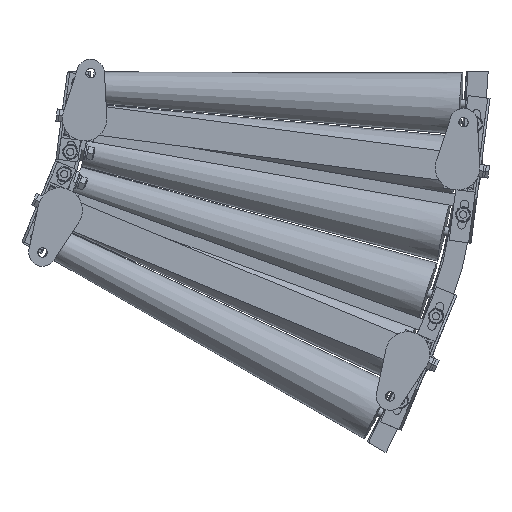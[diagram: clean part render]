
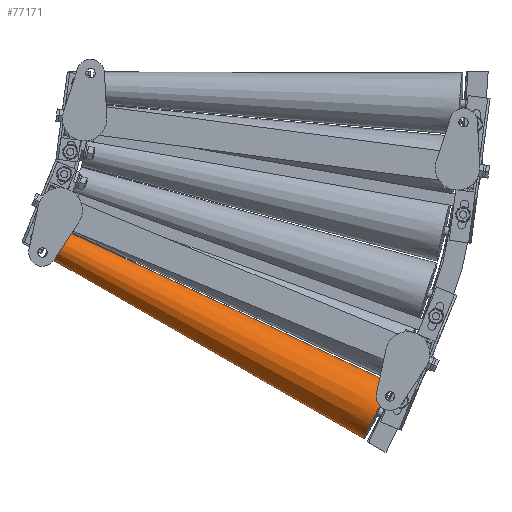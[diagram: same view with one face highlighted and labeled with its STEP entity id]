
A CAD part, front view. The second image highlights one B-rep face of the part: STEP entity #77171.
In plain terms, the highlighted conical face has half-angle 2.423 degrees and reference radius 42.7 mm.
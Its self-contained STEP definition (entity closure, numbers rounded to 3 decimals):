
#3678 = EDGE_CURVE ( 'NONE', #9377, #44040, #44375, .T. ) ;
#6372 = VERTEX_POINT ( 'NONE', #80101 ) ;
#8782 = EDGE_CURVE ( 'NONE', #6372, #30422, #22287, .T. ) ;
#9377 = VERTEX_POINT ( 'NONE', #56498 ) ;
#12168 = CARTESIAN_POINT ( 'NONE',  ( 874.942, -42.662, -503.605 ) ) ;
#17317 = CARTESIAN_POINT ( 'NONE',  ( 914.375, -42.662, -427.854 ) ) ;
#20587 = DIRECTION ( 'NONE',  ( -0.462, 0., -0.887 ) ) ;
#20701 = DIRECTION ( 'NONE',  ( -0.886, 0.042, 0.461 ) ) ;
#22287 = CIRCLE ( 'NONE', #68456, 42.7 ) ;
#24823 = DIRECTION ( 'NONE',  ( 0.462, 0., 0.887 ) ) ;
#27080 = LINE ( 'NONE', #34988, #43392 ) ;
#27844 = CARTESIAN_POINT ( 'NONE',  ( 457.377, -21.331, -214.026 ) ) ;
#28960 = ORIENTED_EDGE ( 'NONE', *, *, #71943, .T. ) ;
#30422 = VERTEX_POINT ( 'NONE', #17317 ) ;
#31506 = CARTESIAN_POINT ( 'NONE',  ( 894.658, -42.662, -465.73 ) ) ;
#32116 = DIRECTION ( 'NONE',  ( 0.886, -0.042, -0.461 ) ) ;
#34632 = DIRECTION ( 'NONE',  ( 0.462, 0., 0.887 ) ) ;
#34988 = CARTESIAN_POINT ( 'NONE',  ( 914.375, -42.662, -427.854 ) ) ;
#35895 = ORIENTED_EDGE ( 'NONE', *, *, #43177, .F. ) ;
#36189 = DIRECTION ( 'NONE',  ( 0.905, -0.042, -0.423 ) ) ;
#42266 = FACE_OUTER_BOUND ( 'NONE', #47846, .T. ) ;
#43177 = EDGE_CURVE ( 'NONE', #44040, #30422, #27080, .T. ) ;
#43392 = VECTOR ( 'NONE', #36189, 1000. ) ;
#44040 = VERTEX_POINT ( 'NONE', #27844 ) ;
#44375 = CIRCLE ( 'NONE', #53872, 21.35 ) ;
#47846 = EDGE_LOOP ( 'NONE', ( #35895, #71728, #28960, #76687 ) ) ;
#51613 = VECTOR ( 'NONE', #53974, 1000. ) ;
#52445 = DIRECTION ( 'NONE',  ( -0.886, 0.042, 0.461 ) ) ;
#53872 = AXIS2_PLACEMENT_3D ( 'NONE', #76134, #20701, #34632 ) ;
#53974 = DIRECTION ( 'NONE',  ( 0.866, -0.042, -0.498 ) ) ;
#54032 = AXIS2_PLACEMENT_3D ( 'NONE', #73629, #32116, #20587 ) ;
#56498 = CARTESIAN_POINT ( 'NONE',  ( 437.66, -21.331, -251.901 ) ) ;
#61356 = LINE ( 'NONE', #12168, #51613 ) ;
#68456 = AXIS2_PLACEMENT_3D ( 'NONE', #31506, #52445, #24823 ) ;
#71728 = ORIENTED_EDGE ( 'NONE', *, *, #3678, .F. ) ;
#71943 = EDGE_CURVE ( 'NONE', #9377, #6372, #61356, .T. ) ;
#73629 = CARTESIAN_POINT ( 'NONE',  ( 894.658, -42.662, -465.73 ) ) ;
#75886 = CONICAL_SURFACE ( 'NONE', #54032, 42.7, 0.042 ) ;
#76134 = CARTESIAN_POINT ( 'NONE',  ( 447.518, -21.331, -232.963 ) ) ;
#76687 = ORIENTED_EDGE ( 'NONE', *, *, #8782, .T. ) ;
#77171 = ADVANCED_FACE ( 'NONE', ( #42266 ), #75886, .T. ) ;
#80101 = CARTESIAN_POINT ( 'NONE',  ( 874.942, -42.662, -503.605 ) ) ;
